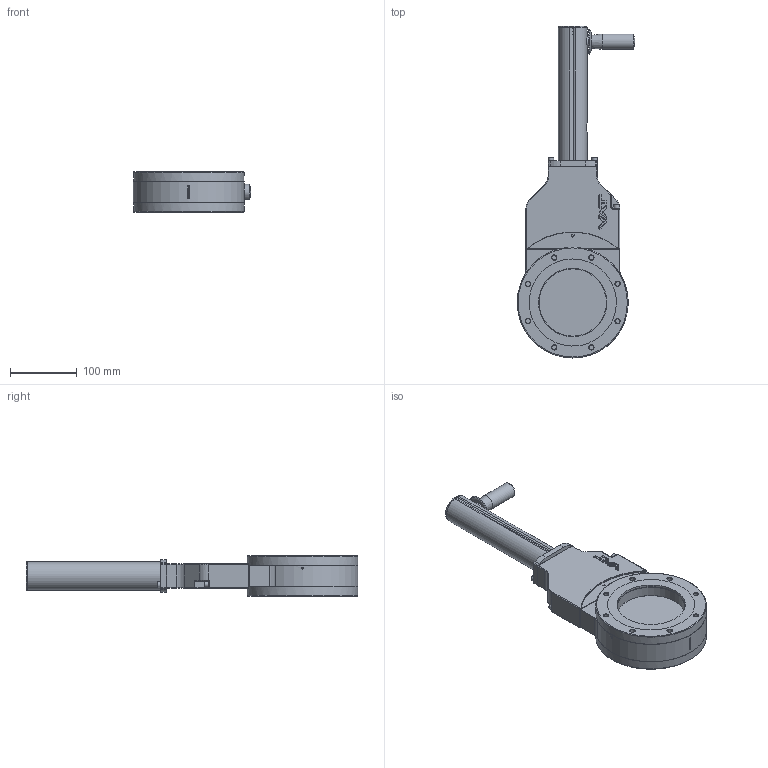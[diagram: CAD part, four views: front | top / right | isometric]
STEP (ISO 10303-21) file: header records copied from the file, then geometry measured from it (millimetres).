
FILE_DESCRIPTION(/* description */ (''),/* implementation_level */ '2;1');
FILE_NAME(/* name */ '1264654147_203.stp',/* time_stamp */ '2014-10-08T11:26:29+02:00',/* author */ (''),/* organization */ (''),/* preprocessor_version */ 'ST-DEVELOPER v11',/* originating_system */ 'SIEMENS PLM Software NX 7.5',/* authorisation */ '');
FILE_SCHEMA (('AP203_CONFIGURATION_CONTROLLED_3D_DESIGN_OF_MECHANICAL_PARTS_AND_ASSEMBLIES_MIM_LF'));
Length unit declared in the file: millimetre
Products named in the file (20): 258825.3; 258827.2; 258826.1; 249686.1; 251091; 249618.1; N-6252-038_001.1; 258938.3; 249701.1; n-6134-407; 245959.8; 80829-01.1; 224794.1; 246014.7_21697ID; 247750.1; N-5100-113.1; N-5100-153.1; 258828.6; 258978.17_NX-ARRAGMNTOFFEN Massbild, Innenteile+Stange unterdrueckt; 253229.13
Assembly tree (24 placements, depth 4):
  253229.13
    N-5100-153.1
    N-5100-113.1  x2
    247750.1  x2
    246014.7_21697ID
    224794.1  x2
    80829-01.1
    245959.8
    n-6134-407  x2
    258978.17_NX-ARRAGMNTOFFEN Massbild, Innenteile+Stange unterdrueckt
      258828.6
        249686.1  x2
        258826.1
        258827.2
        258825.3
      249701.1
      258938.3
      N-6252-038_001.1
      249618.1
      251091
Bounding box: 175.3 x 495.6 x 60 mm (x, y, z)
Volume: 1305353.2 mm3; surface area: 298053.8 mm2
Topology: 22 solids, 22 shells, 1089 faces, 2685 edges, 1721 vertices
Faces by surface type: plane 495, cylinder 333, torus 99, cone 73, extrusion 49, bspline 23, sphere 17
Full cylindrical faces by diameter (mm): 4.2 x5, 5 x9, 5.1 x3, 5.3 x2, 5.5 x2, 6.8 x16, 8.5 x5, 9 x2, 10.2 x1, 11 x1, 13.979 x3, 14 x2, 14.65 x1, 15.1 x1, 16 x4, 18.1 x1, 18.17 x1, 18.216 x3, 23 x1, 28 x1, 28.2 x1, 35 x1, 37 x4, 38.05 x1, 38.125 x1, 42 x1, 100.5 x3, 102.1 x2, 165 x2
Entity records: 36515 total; most frequent: CARTESIAN_POINT 9095, ORIENTED_EDGE 4746, DIRECTION 4743, EDGE_CURVE 2373, AXIS2_PLACEMENT_3D 1853, VERTEX_POINT 1604, EDGE_LOOP 1300, ADVANCED_FACE 1039
